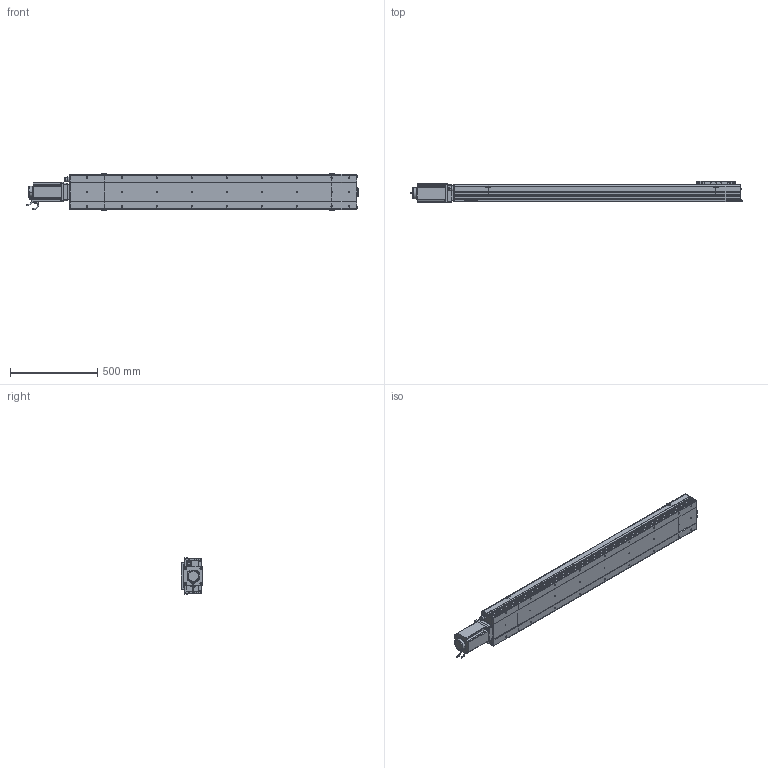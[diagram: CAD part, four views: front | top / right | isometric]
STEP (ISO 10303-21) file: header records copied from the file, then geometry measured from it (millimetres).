
FILE_DESCRIPTION (( 'STEP AP214' ), '1' );
FILE_NAME ('D20 CSH MD S1300.STEP', '2010-06-30T08:21:53', ( 'Conseil Régional Haute-Normandie' ), ( 'Conseil Régional Haute-Normandie' ), 'SwSTEP 2.0', 'SolidWorks 2010', '' );
FILE_SCHEMA (( 'AUTOMOTIVE_DESIGN' ));
Length unit declared in the file: millimetre
Products named in the file (28): Plaque De Serrage Head D20_Default; Conecteur2_Default; Plaque racord D20_Default; Moteur motionking 110BLDC170A-640x; corps 110BLDC170A-630x; avant 110BLDC170A-630x; vis M8 L15_Default; codeur 110BLDC170A-630x; vis M5 L15_Default; Support Chariot D20_Default; Glissiere_Default; Chariot D20_Default; clavette; Conecteur_Default; D20 CSH MD S1300; Couvercle_Default; Corp Tail D20+100_Default; Tail D20+100_Default; Corp D20 S1300_Default; Plaque De Serrage D20_Default; Plaque de Bout Tail D20_Default; Head D20 MD_Default; Couvercle S1300_Default; Corp S1300_Default; Plaque de Bout Head D20_Default; Couvercle Head_Default; Corp Head D20_Default
Assembly tree (53 placements, depth 4):
  D20 CSH MD S1300
    Head D20 MD_Default
      vis M8 L15_Default  x4
      Moteur motionking 110BLDC170A-640x
        Conecteur_Default
        avant 110BLDC170A-630x
        corps 110BLDC170A-630x
        clavette
        codeur 110BLDC170A-630x
        Conecteur2_Default
      vis M5 L15_Default  x10
      Plaque racord D20_Default
      Plaque De Serrage Head D20_Default
      Plaque de Bout Head D20_Default
      Corp Head D20_Default
      Couvercle Head_Default
    Chariot D20_Default
      Glissiere_Default
      vis M5 L15_Default  x8
      Chariot D20_Default
      Support Chariot D20_Default
    Tail D20+100_Default
      Couvercle_Default
      vis M5 L15_Default  x6
      Corp Tail D20+100_Default
      Plaque De Serrage D20_Default
      Plaque de Bout Tail D20_Default
    Corp D20 S1300_Default
      Couvercle S1300_Default
      Corp S1300_Default
Bounding box: 1899 x 125.5 x 206 mm (x, y, z)
Volume: 13390275.3 mm3; surface area: 2387460.1 mm2
Topology: 90 solids, 90 shells, 3433 faces, 8645 edges, 5649 vertices
Faces by surface type: plane 1950, bspline 758, cylinder 587, torus 79, cone 59
Entity records: 153507 total; most frequent: CARTESIAN_POINT 79448, ORIENTED_EDGE 14686, DIRECTION 11003, EDGE_CURVE 7343, VERTEX_POINT 4869, LINE 4811, VECTOR 4811, EDGE_LOOP 3120
